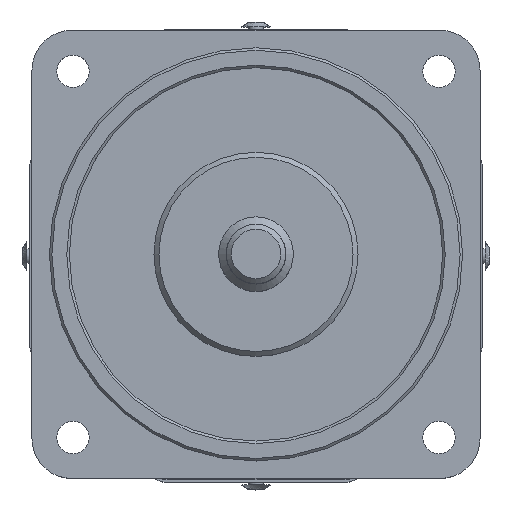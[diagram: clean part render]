
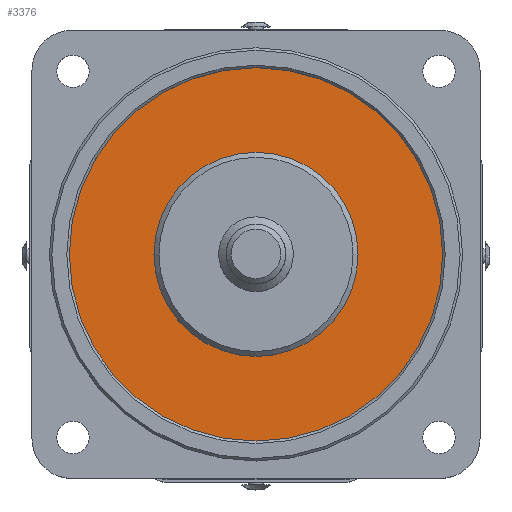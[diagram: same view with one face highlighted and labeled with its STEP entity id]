
A CAD part, top view. The second image highlights one B-rep face of the part: STEP entity #3376.
In plain terms, the highlighted planar face has unit normal (0, 0, 1).
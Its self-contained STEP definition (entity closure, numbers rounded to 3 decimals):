
#358 = EDGE_LOOP ( 'NONE', ( #703 ) ) ;
#359 = EDGE_LOOP ( 'NONE', ( #702 ) ) ;
#702 = ORIENTED_EDGE ( 'NONE', *, *, #6187, .T. ) ;
#703 = ORIENTED_EDGE ( 'NONE', *, *, #6188, .F. ) ;
#1510 = FACE_OUTER_BOUND ( 'NONE', #359, .T. ) ;
#1513 = FACE_BOUND ( 'NONE', #358, .T. ) ;
#2110 = PLANE ( 'NONE',  #6339 ) ;
#2111 = CARTESIAN_POINT ( 'NONE',  ( 0., 0., -2. ) ) ;
#2116 = DIRECTION ( 'NONE',  ( 0., 0., 1. ) ) ;
#2117 = DIRECTION ( 'NONE',  ( 1., 0., 0. ) ) ;
#3178 = CARTESIAN_POINT ( 'NONE',  ( 37.5, 0., -2. ) ) ;
#3179 = CARTESIAN_POINT ( 'NONE',  ( 20.5, 0., -2. ) ) ;
#3376 = ADVANCED_FACE ( 'NONE', ( #1510, #1513 ), #2110, .T. ) ;
#4076 = CARTESIAN_POINT ( 'NONE',  ( 0., 0., -2. ) ) ;
#4077 = DIRECTION ( 'NONE',  ( 0., 0., 1. ) ) ;
#4078 = DIRECTION ( 'NONE',  ( 1., 0., 0. ) ) ;
#4080 = CARTESIAN_POINT ( 'NONE',  ( 0., 0., -2. ) ) ;
#4081 = DIRECTION ( 'NONE',  ( 0., 0., 1. ) ) ;
#4082 = DIRECTION ( 'NONE',  ( 1., 0., 0. ) ) ;
#5676 = VERTEX_POINT ( 'NONE', #3178 ) ;
#5677 = VERTEX_POINT ( 'NONE', #3179 ) ;
#6187 = EDGE_CURVE ( 'NONE', #5676, #5676, #8008, .T. ) ;
#6188 = EDGE_CURVE ( 'NONE', #5677, #5677, #8009, .T. ) ;
#6339 = AXIS2_PLACEMENT_3D ( 'NONE', #2111, #2116, #2117 ) ;
#7154 = AXIS2_PLACEMENT_3D ( 'NONE', #4076, #4077, #4078 ) ;
#7155 = AXIS2_PLACEMENT_3D ( 'NONE', #4080, #4081, #4082 ) ;
#8008 = CIRCLE ( 'NONE', #7154, 37.5 ) ;
#8009 = CIRCLE ( 'NONE', #7155, 20.5 ) ;
